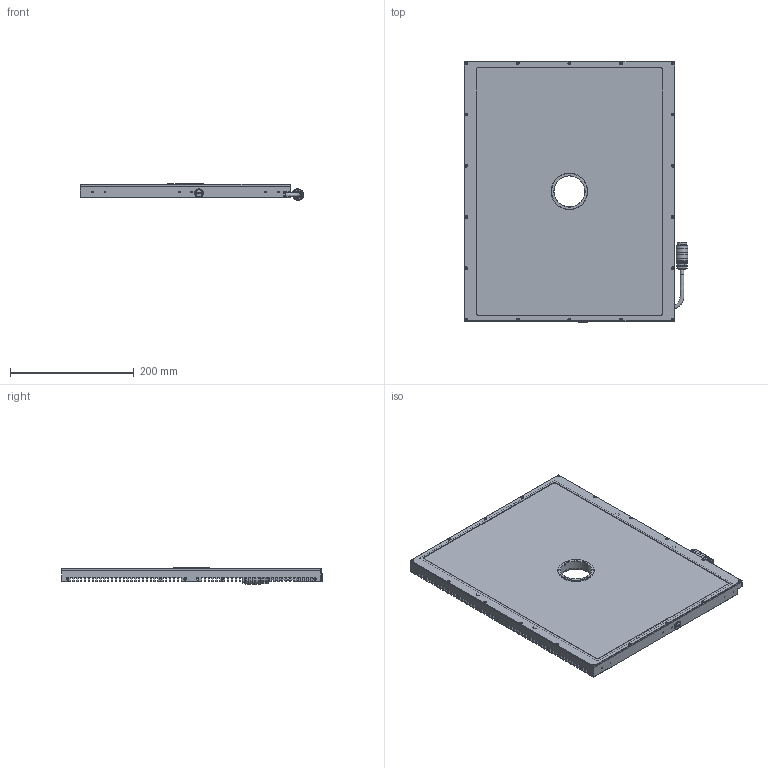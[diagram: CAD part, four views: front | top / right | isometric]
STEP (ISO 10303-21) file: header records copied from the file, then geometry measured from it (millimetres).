
FILE_DESCRIPTION(/* description */ ('CAx-IF Rec.Pracs.---Representation and Presentation of Product Manufacturing Information (PMI)---4.0---2014-10-13','CAx-IF Rec.Pracs.---3D Tessellated Geometry---0.4---2014-09-14','2;1'),/* implementation_level */ '2;1');
FILE_NAME(/* name */ 'LGCB4030-LGCB4030FL-V02',/* time_stamp */ '2019-12-03T13:21:06+01:00',/* author */ (''),/* organization */ ('iiM AG'),/* preprocessor_version */ 'ST-DEVELOPER v16.7',/* originating_system */ 'DEX',/* authorisation */ $);
FILE_SCHEMA (('AP242_MANAGED_MODEL_BASED_3D_ENGINEERING_MIM_LF { 1 0 10303 442 1 1 4 }'));
Products named in the file (1): LGCB4030-V02_MO
Bounding box: 361.29 x 421.95 x 26.79 mm (x, y, z)
Volume: 1342961.6 mm3; surface area: 892264.7 mm2
Topology: 2 solids, 21 shells, 1712 faces, 4695 edges, 3040 vertices
Faces by surface type: plane 847, cylinder 555, cone 257, torus 22, bspline 18, sphere 13
Full cylindrical faces by diameter (mm): 1 x12, 1.567 x36, 2 x18, 2.1 x14, 2.11 x4, 2.459 x4, 3.8 x18, 4.134 x62, 6 x2, 6.2 x1, 8 x1, 9 x1, 11 x3, 11.89 x1, 14 x1, 15 x1, 16 x1, 17.5 x1, 18.5 x3, 18.6 x2, 50 x1, 51 x1, 54 x2, 55 x1, 58 x1, 59 x1
Entity records: 68330 total; most frequent: CARTESIAN_POINT 16611, ORIENTED_EDGE 8096, DIRECTION 7745, EDGE_CURVE 4048, VERTEX_POINT 2837, AXIS2_PLACEMENT_3D 2738, LINE 2269, VECTOR 2269
